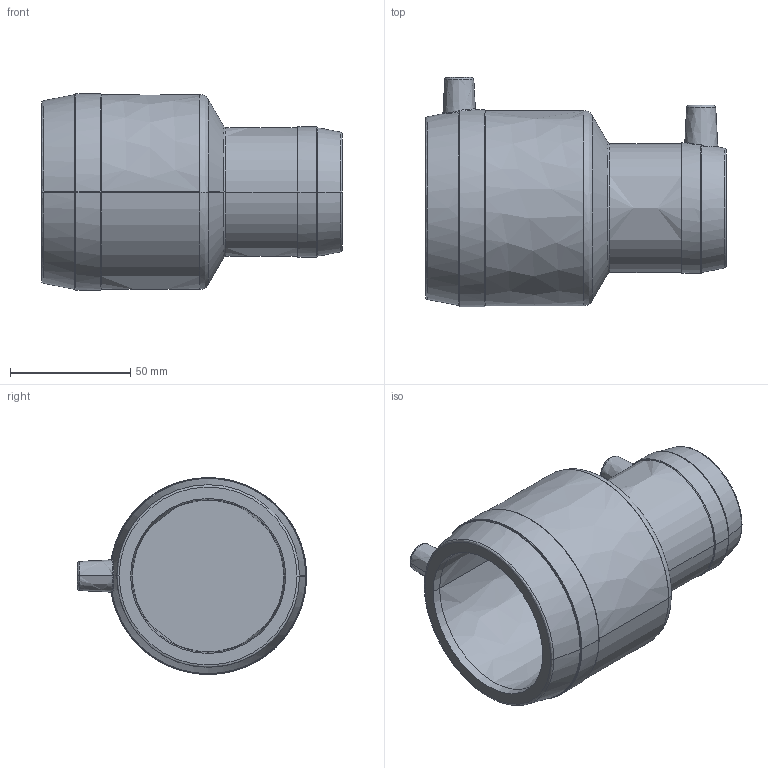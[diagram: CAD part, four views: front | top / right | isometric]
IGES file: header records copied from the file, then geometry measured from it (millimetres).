
Start section:  PTC IGES file: mr-stopp_mertik_d63-40_01.igs
Global section: file name: mr-stopp_mertik_d63-40_01.igs; native system: Pro/ENGINEER by Parametric Technology Corporation; preprocessor: 2011490; author: mtunjic; organization: Unknown; date: 20130819.085325; units: millimetre
Bounding box: 125 x 95.2 x 81.8 mm (x, y, z)
Surface area: 58450.9 mm2 (no closed solid volume)
Topology: 0 solids, 0 shells, 214 faces, 1042 edges, 1042 vertices
Faces by surface type: bspline 214
